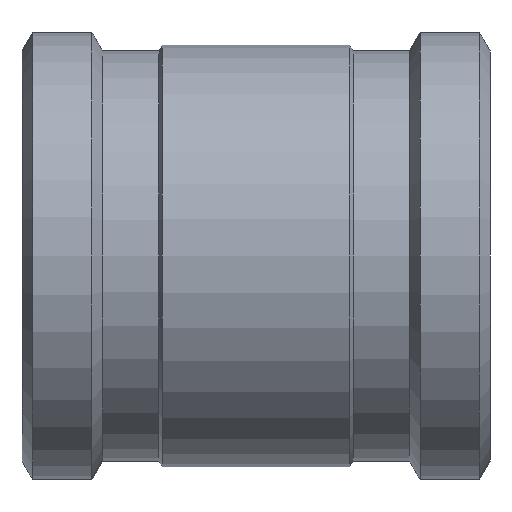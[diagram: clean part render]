
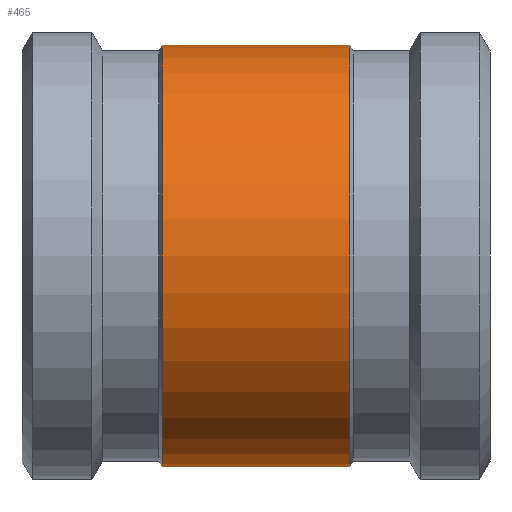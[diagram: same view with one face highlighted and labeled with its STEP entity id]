
A CAD part, front view. The second image highlights one B-rep face of the part: STEP entity #465.
In plain terms, the highlighted cylindrical face has radius 77.978 mm (diameter 155.956 mm), a full revolution.
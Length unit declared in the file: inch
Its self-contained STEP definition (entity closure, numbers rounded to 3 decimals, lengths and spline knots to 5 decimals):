
#51=CIRCLE('',#533,3.07);
#52=CIRCLE('',#534,3.07);
#53=CIRCLE('',#536,3.07);
#54=CIRCLE('',#537,3.07);
#74=CYLINDRICAL_SURFACE('',#535,3.07);
#105=FACE_OUTER_BOUND('',#139,.T.);
#139=EDGE_LOOP('',(#399,#400,#401,#402,#403,#404));
#163=LINE('',#1204,#183);
#183=VECTOR('',#661,3.07);
#231=VERTEX_POINT('',#1194);
#232=VERTEX_POINT('',#1195);
#233=VERTEX_POINT('',#1200);
#234=VERTEX_POINT('',#1201);
#290=EDGE_CURVE('',#231,#232,#51,.T.);
#291=EDGE_CURVE('',#232,#231,#52,.T.);
#293=EDGE_CURVE('',#233,#234,#53,.T.);
#294=EDGE_CURVE('',#234,#233,#54,.T.);
#295=EDGE_CURVE('',#234,#232,#163,.T.);
#399=ORIENTED_EDGE('',*,*,#293,.F.);
#400=ORIENTED_EDGE('',*,*,#294,.F.);
#401=ORIENTED_EDGE('',*,*,#295,.T.);
#402=ORIENTED_EDGE('',*,*,#291,.T.);
#403=ORIENTED_EDGE('',*,*,#290,.T.);
#404=ORIENTED_EDGE('',*,*,#295,.F.);
#465=ADVANCED_FACE('',(#105),#74,.T.);
#533=AXIS2_PLACEMENT_3D('',#1196,#650,#651);
#534=AXIS2_PLACEMENT_3D('',#1197,#652,#653);
#535=AXIS2_PLACEMENT_3D('',#1199,#655,#656);
#536=AXIS2_PLACEMENT_3D('',#1202,#657,#658);
#537=AXIS2_PLACEMENT_3D('',#1203,#659,#660);
#650=DIRECTION('center_axis',(1.,0.,0.));
#651=DIRECTION('ref_axis',(0.,0.,-1.));
#652=DIRECTION('center_axis',(1.,0.,0.));
#653=DIRECTION('ref_axis',(0.,0.,-1.));
#655=DIRECTION('center_axis',(1.,0.,0.));
#656=DIRECTION('ref_axis',(0.,1.,0.));
#657=DIRECTION('center_axis',(1.,0.,0.));
#658=DIRECTION('ref_axis',(0.,0.,-1.));
#659=DIRECTION('center_axis',(1.,0.,0.));
#660=DIRECTION('ref_axis',(0.,0.,-1.));
#661=DIRECTION('',(-1.,0.,0.));
#1194=CARTESIAN_POINT('',(-1.362,3.07,0.));
#1195=CARTESIAN_POINT('',(-1.362,-3.07,0.));
#1196=CARTESIAN_POINT('Origin',(-1.362,0.,0.));
#1197=CARTESIAN_POINT('Origin',(-1.362,0.,0.));
#1199=CARTESIAN_POINT('Origin',(0.,0.,0.));
#1200=CARTESIAN_POINT('',(1.362,3.07,0.));
#1201=CARTESIAN_POINT('',(1.362,-3.07,0.));
#1202=CARTESIAN_POINT('Origin',(1.362,0.,0.));
#1203=CARTESIAN_POINT('Origin',(1.362,0.,0.));
#1204=CARTESIAN_POINT('',(0.,-3.07,0.));
